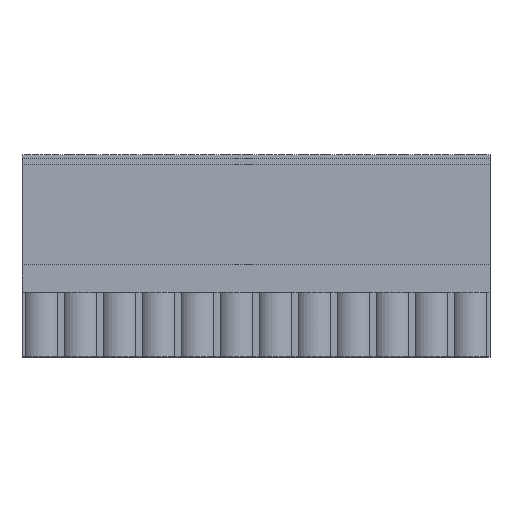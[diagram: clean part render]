
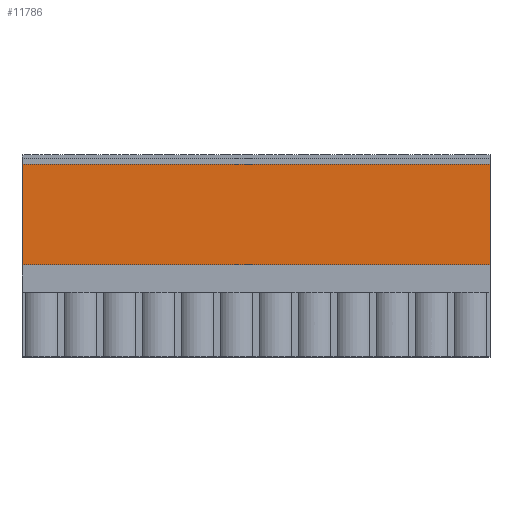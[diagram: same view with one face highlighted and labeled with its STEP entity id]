
A CAD part, top view. The second image highlights one B-rep face of the part: STEP entity #11786.
In plain terms, the highlighted planar face has unit normal (0, 0, 1).
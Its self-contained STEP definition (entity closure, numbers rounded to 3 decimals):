
#8351 = CARTESIAN_POINT ( 'NONE',  ( 0., 18.355, 0. ) ) ;
#11036 = VERTEX_POINT ( 'NONE', #8351 ) ;
#11695 = EDGE_CURVE ( 'NONE', #11811, #11036, #15795, .T. ) ;
#11696 = ORIENTED_EDGE ( 'NONE', *, *, #11695, .F. ) ;
#11697 = ORIENTED_EDGE ( 'NONE', *, *, #11726, .T. ) ;
#11711 = VERTEX_POINT ( 'NONE', #15736 ) ;
#11720 = ORIENTED_EDGE ( 'NONE', *, *, #11748, .T. ) ;
#11726 = EDGE_CURVE ( 'NONE', #11749, #11711, #15744, .T. ) ;
#11748 = EDGE_CURVE ( 'NONE', #11811, #11749, #15839, .T. ) ;
#11749 = VERTEX_POINT ( 'NONE', #15755 ) ;
#11786 = ADVANCED_FACE ( 'NONE', ( #15970 ), #15969, .F. ) ;
#11787 = ORIENTED_EDGE ( 'NONE', *, *, #11788, .F. ) ;
#11788 = EDGE_CURVE ( 'NONE', #11036, #11711, #15968, .T. ) ;
#11801 = EDGE_LOOP ( 'NONE', ( #11787, #11696, #11720, #11697 ) ) ;
#11811 = VERTEX_POINT ( 'NONE', #15885 ) ;
#15736 = CARTESIAN_POINT ( 'NONE',  ( 60., 18.355, 0. ) ) ;
#15742 = VECTOR ( 'NONE', #15815, 1000. ) ;
#15743 = CARTESIAN_POINT ( 'NONE',  ( 60., 3.055, 0. ) ) ;
#15744 = LINE ( 'NONE', #15743, #15742 ) ;
#15755 = CARTESIAN_POINT ( 'NONE',  ( 60., 3.055, 0. ) ) ;
#15756 = DIRECTION ( 'NONE',  ( 1., 0., 0. ) ) ;
#15757 = VECTOR ( 'NONE', #15756, 1000. ) ;
#15792 = DIRECTION ( 'NONE',  ( 0., 1., 0. ) ) ;
#15793 = VECTOR ( 'NONE', #15792, 1000. ) ;
#15794 = CARTESIAN_POINT ( 'NONE',  ( 0., 3.055, 0. ) ) ;
#15795 = LINE ( 'NONE', #15794, #15793 ) ;
#15815 = DIRECTION ( 'NONE',  ( 0., 1., 0. ) ) ;
#15838 = CARTESIAN_POINT ( 'NONE',  ( 36., 3.055, 0. ) ) ;
#15839 = LINE ( 'NONE', #15838, #15757 ) ;
#15873 = DIRECTION ( 'NONE',  ( 1., 0., 0. ) ) ;
#15874 = VECTOR ( 'NONE', #15873, 1000. ) ;
#15875 = CARTESIAN_POINT ( 'NONE',  ( 35., 18.355, 0. ) ) ;
#15877 = DIRECTION ( 'NONE',  ( 0., -1., 0. ) ) ;
#15885 = CARTESIAN_POINT ( 'NONE',  ( 0., 3.055, 0. ) ) ;
#15965 = DIRECTION ( 'NONE',  ( 0., 0., -1. ) ) ;
#15966 = CARTESIAN_POINT ( 'NONE',  ( 35., 3.055, 0. ) ) ;
#15967 = AXIS2_PLACEMENT_3D ( 'NONE', #15966, #15965, #15877 ) ;
#15968 = LINE ( 'NONE', #15875, #15874 ) ;
#15969 = PLANE ( 'NONE',  #15967 ) ;
#15970 = FACE_OUTER_BOUND ( 'NONE', #11801, .T. ) ;
